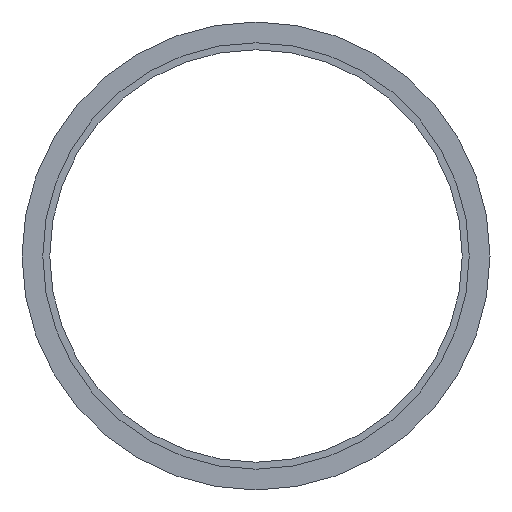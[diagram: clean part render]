
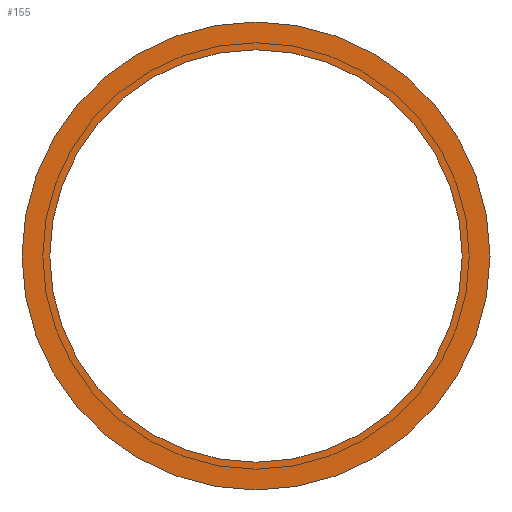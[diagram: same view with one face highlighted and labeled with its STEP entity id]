
A CAD part, left-side view. The second image highlights one B-rep face of the part: STEP entity #155.
In plain terms, the highlighted planar face has unit normal (-1, 0, 0).
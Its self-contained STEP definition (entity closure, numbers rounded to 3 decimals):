
#84=CARTESIAN_POINT('',(-33.741,64.415,59.5));
#85=VERTEX_POINT('',#84);
#86=CARTESIAN_POINT('',(-33.741,64.415,0.0));
#87=DIRECTION('',(1.0,0.0,0.0));
#88=DIRECTION('',(0.0,0.0,-1.0));
#89=AXIS2_PLACEMENT_3D('',#86,#87,#88);
#90=CIRCLE('',#89,59.5);
#91=EDGE_CURVE('',#85,#85,#90,.T.);
#129=CARTESIAN_POINT('',(-33.741,-3.085,0.0));
#130=VERTEX_POINT('',#129);
#131=CARTESIAN_POINT('',(-33.741,64.415,0.0));
#132=DIRECTION('',(-1.0,0.0,0.0));
#133=DIRECTION('',(0.0,-1.0,0.0));
#134=AXIS2_PLACEMENT_3D('',#131,#132,#133);
#135=CIRCLE('',#134,67.5);
#136=EDGE_CURVE('',#130,#130,#135,.T.);
#144=CARTESIAN_POINT('',(-33.741,30.665,0.0));
#145=DIRECTION('',(-1.0,0.0,0.0));
#146=DIRECTION('',(0.0,0.0,1.0));
#147=AXIS2_PLACEMENT_3D('',#144,#145,#146);
#148=PLANE('',#147);
#149=ORIENTED_EDGE('',*,*,#136,.T.);
#150=EDGE_LOOP('',(#149));
#151=FACE_OUTER_BOUND('',#150,.T.);
#152=ORIENTED_EDGE('',*,*,#91,.T.);
#153=EDGE_LOOP('',(#152));
#154=FACE_BOUND('',#153,.T.);
#155=ADVANCED_FACE('',(#151,#154),#148,.T.);
